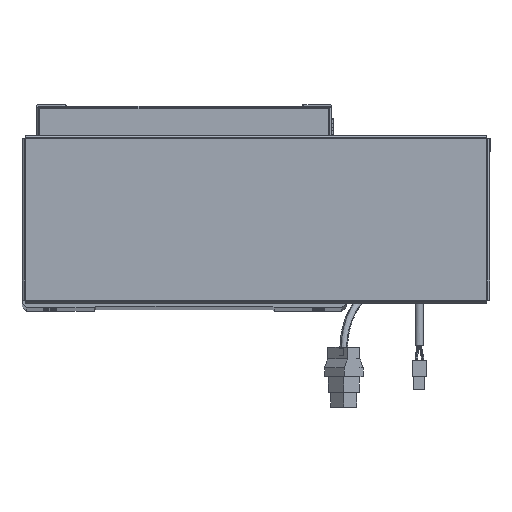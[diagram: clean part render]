
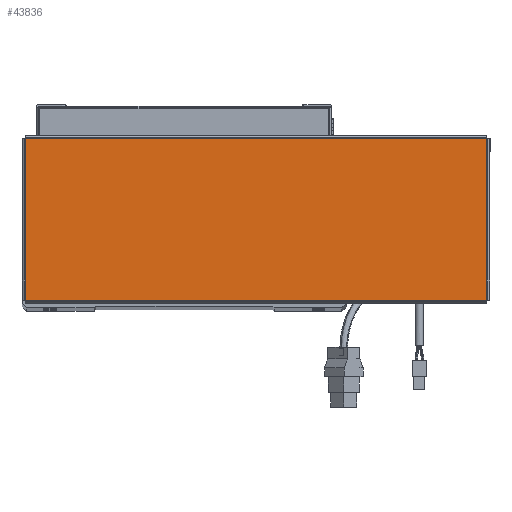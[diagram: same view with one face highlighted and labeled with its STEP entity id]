
A CAD part, top view. The second image highlights one B-rep face of the part: STEP entity #43836.
In plain terms, the highlighted planar face has unit normal (0, 0, 1).
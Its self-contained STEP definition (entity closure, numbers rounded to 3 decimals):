
#2421 = VECTOR ( 'NONE', #6969, 1000. ) ;
#2588 = EDGE_LOOP ( 'NONE', ( #15558, #65112, #24082, #63472 ) ) ;
#4038 = DIRECTION ( 'NONE',  ( 0., 1., 0. ) ) ;
#4183 = EDGE_CURVE ( 'NONE', #37218, #41980, #19056, .T. ) ;
#5793 = LINE ( 'NONE', #54797, #59194 ) ;
#6847 = DIRECTION ( 'NONE',  ( 0., -1., 0. ) ) ;
#6969 = DIRECTION ( 'NONE',  ( -1., 0., 0. ) ) ;
#8296 = LINE ( 'NONE', #61622, #62434 ) ;
#12746 = CARTESIAN_POINT ( 'NONE',  ( -156.513, 54.763, 0. ) ) ;
#14765 = DIRECTION ( 'NONE',  ( 0., 0., 1. ) ) ;
#14950 = VECTOR ( 'NONE', #24156, 1000. ) ;
#15558 = ORIENTED_EDGE ( 'NONE', *, *, #4183, .T. ) ;
#17055 = AXIS2_PLACEMENT_3D ( 'NONE', #24446, #14765, #36293 ) ;
#19056 = LINE ( 'NONE', #23477, #14950 ) ;
#20975 = VERTEX_POINT ( 'NONE', #58353 ) ;
#23477 = CARTESIAN_POINT ( 'NONE',  ( -156.543, -54.763, 0. ) ) ;
#24082 = ORIENTED_EDGE ( 'NONE', *, *, #40291, .T. ) ;
#24156 = DIRECTION ( 'NONE',  ( 1., 0., 0. ) ) ;
#24446 = CARTESIAN_POINT ( 'NONE',  ( 0., 0., 0. ) ) ;
#25374 = LINE ( 'NONE', #33100, #2421 ) ;
#31483 = CARTESIAN_POINT ( 'NONE',  ( 156.513, -54.763, 0. ) ) ;
#32980 = CARTESIAN_POINT ( 'NONE',  ( -156.513, -54.763, 0. ) ) ;
#33100 = CARTESIAN_POINT ( 'NONE',  ( 156.543, 54.763, 0. ) ) ;
#35401 = PLANE ( 'NONE',  #17055 ) ;
#36293 = DIRECTION ( 'NONE',  ( 1., 0., 0. ) ) ;
#37218 = VERTEX_POINT ( 'NONE', #32980 ) ;
#38562 = EDGE_CURVE ( 'NONE', #45774, #37218, #5793, .T. ) ;
#40291 = EDGE_CURVE ( 'NONE', #20975, #45774, #25374, .T. ) ;
#41980 = VERTEX_POINT ( 'NONE', #31483 ) ;
#43836 = ADVANCED_FACE ( 'NONE', ( #58137 ), #35401, .T. ) ;
#45774 = VERTEX_POINT ( 'NONE', #12746 ) ;
#54797 = CARTESIAN_POINT ( 'NONE',  ( -156.513, 54.793, 0. ) ) ;
#58137 = FACE_OUTER_BOUND ( 'NONE', #2588, .T. ) ;
#58353 = CARTESIAN_POINT ( 'NONE',  ( 156.513, 54.763, 0. ) ) ;
#59194 = VECTOR ( 'NONE', #6847, 1000. ) ;
#61622 = CARTESIAN_POINT ( 'NONE',  ( 156.513, -54.793, 0. ) ) ;
#62434 = VECTOR ( 'NONE', #4038, 1000. ) ;
#63472 = ORIENTED_EDGE ( 'NONE', *, *, #38562, .T. ) ;
#65112 = ORIENTED_EDGE ( 'NONE', *, *, #66194, .T. ) ;
#66194 = EDGE_CURVE ( 'NONE', #41980, #20975, #8296, .T. ) ;
